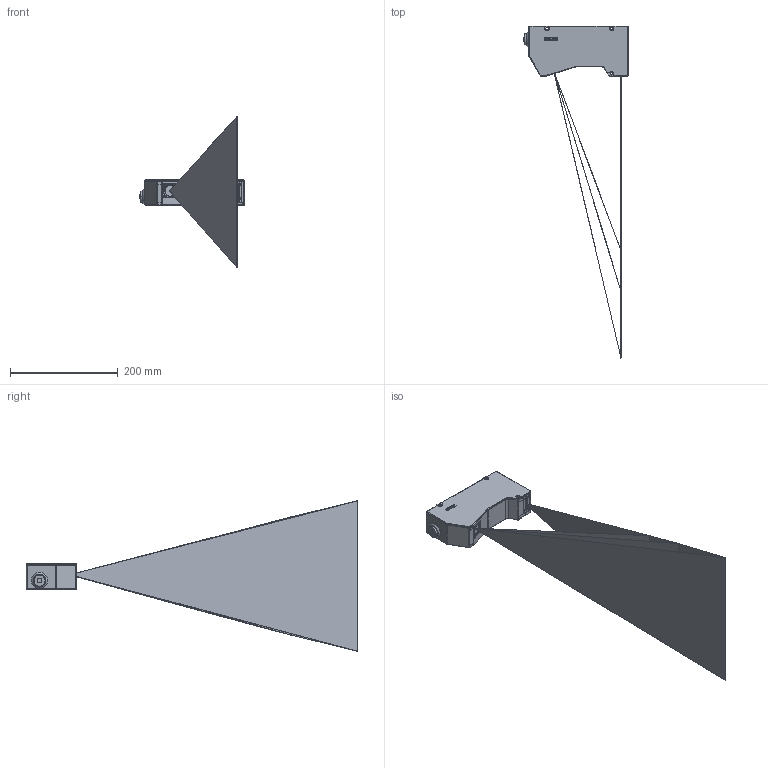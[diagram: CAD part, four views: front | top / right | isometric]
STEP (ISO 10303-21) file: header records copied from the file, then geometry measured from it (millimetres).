
FILE_DESCRIPTION (( 'STEP AP214' ), '1' );
FILE_NAME ('SR7400假蚾尨砩芞.STEP', '2022-02-11T07:12:59', ( '' ), ( '' ), 'SwSTEP 2.0', 'SolidWorks 2020', '' );
FILE_SCHEMA (( 'AUTOMOTIVE_DESIGN' ));
Length unit declared in the file: millimetre
Products named in the file (1): SR7400假蚾尨砩芞
Bounding box: 195.3 x 617.22 x 280 mm (x, y, z)
Volume: 254335.6 mm3; surface area: 573554.1 mm2
Topology: 1 solids, 1 shells, 770 faces, 2217 edges, 1492 vertices
Faces by surface type: plane 399, cylinder 183, bspline 122, cone 64, torus 2
Entity records: 33909 total; most frequent: CARTESIAN_POINT 13420, ORIENTED_EDGE 4386, DIRECTION 3560, EDGE_CURVE 2193, VERTEX_POINT 1492, VECTOR 1438, LINE 1438, AXIS2_PLACEMENT_3D 1061
